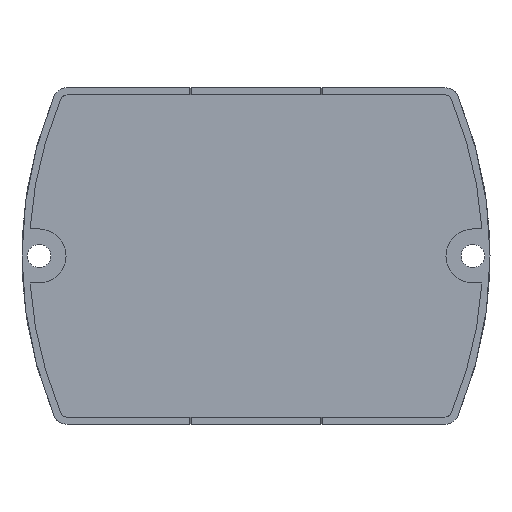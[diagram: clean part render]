
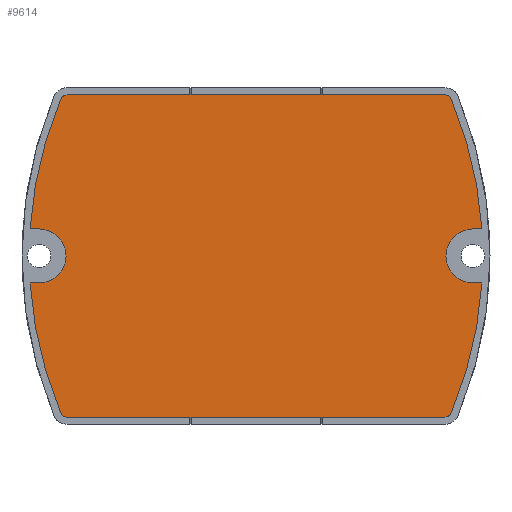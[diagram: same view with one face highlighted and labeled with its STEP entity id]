
A CAD part, front view. The second image highlights one B-rep face of the part: STEP entity #9614.
In plain terms, the highlighted planar face has unit normal (0, -1, 0).
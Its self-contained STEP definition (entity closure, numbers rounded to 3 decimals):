
#3394=CARTESIAN_POINT('',(50.,5.5,0.));
#3395=DIRECTION('',(0.,-1.,0.));
#3396=DIRECTION('',(-0.923,0.,0.385));
#3397=AXIS2_PLACEMENT_3D('',#3394,#3395,#3396);
#3399=CARTESIAN_POINT('',(-52.437,5.5,44.75));
#3400=CARTESIAN_POINT('',(-52.591,5.5,44.75));
#3401=CARTESIAN_POINT('',(-52.908,5.5,44.713));
#3402=CARTESIAN_POINT('',(-53.35,5.5,44.55));
#3403=CARTESIAN_POINT('',(-53.747,5.5,44.286));
#3404=CARTESIAN_POINT('',(-54.068,5.5,43.941));
#3405=CARTESIAN_POINT('',(-54.224,5.5,43.662));
#3406=CARTESIAN_POINT('',(-54.283,5.5,43.52));
#3408=DIRECTION('',(-1.,0.,0.));
#3409=VECTOR('',#3408,104.875);
#3410=CARTESIAN_POINT('',(52.437,5.5,44.75));
#3411=LINE('',#3410,#3409);
#3412=CARTESIAN_POINT('',(54.283,5.5,43.52));
#3413=CARTESIAN_POINT('',(54.224,5.5,43.662));
#3414=CARTESIAN_POINT('',(54.068,5.5,43.941));
#3415=CARTESIAN_POINT('',(53.747,5.5,44.286));
#3416=CARTESIAN_POINT('',(53.35,5.5,44.55));
#3417=CARTESIAN_POINT('',(52.908,5.5,44.713));
#3418=CARTESIAN_POINT('',(52.591,5.5,44.75));
#3419=CARTESIAN_POINT('',(52.437,5.5,44.75));
#3421=CARTESIAN_POINT('',(-50.,5.5,0.));
#3422=DIRECTION('',(0.,-1.,0.));
#3423=DIRECTION('',(0.998,0.,0.066));
#3424=AXIS2_PLACEMENT_3D('',#3421,#3422,#3423);
#3426=DIRECTION('',(1.,0.,0.));
#3427=VECTOR('',#3426,2.501);
#3428=CARTESIAN_POINT('',(60.25,5.5,7.5));
#3429=LINE('',#3428,#3427);
#3430=CARTESIAN_POINT('',(60.25,5.5,0.));
#3431=DIRECTION('',(0.,1.,0.));
#3432=DIRECTION('',(0.,0.,-1.));
#3433=AXIS2_PLACEMENT_3D('',#3430,#3431,#3432);
#3435=DIRECTION('',(-1.,0.,0.));
#3436=VECTOR('',#3435,2.501);
#3437=CARTESIAN_POINT('',(62.751,5.5,-7.5));
#3438=LINE('',#3437,#3436);
#3439=CARTESIAN_POINT('',(-50.,5.5,0.));
#3440=DIRECTION('',(0.,-1.,0.));
#3441=DIRECTION('',(0.923,0.,-0.385));
#3442=AXIS2_PLACEMENT_3D('',#3439,#3440,#3441);
#3444=CARTESIAN_POINT('',(52.437,5.5,-44.75));
#3445=CARTESIAN_POINT('',(52.591,5.5,-44.75));
#3446=CARTESIAN_POINT('',(52.908,5.5,-44.713));
#3447=CARTESIAN_POINT('',(53.35,5.5,-44.55));
#3448=CARTESIAN_POINT('',(53.747,5.5,-44.286));
#3449=CARTESIAN_POINT('',(54.068,5.5,-43.941));
#3450=CARTESIAN_POINT('',(54.224,5.5,-43.662));
#3451=CARTESIAN_POINT('',(54.283,5.5,-43.52));
#3453=DIRECTION('',(1.,0.,0.));
#3454=VECTOR('',#3453,104.875);
#3455=CARTESIAN_POINT('',(-52.437,5.5,-44.75));
#3456=LINE('',#3455,#3454);
#3457=CARTESIAN_POINT('',(-54.283,5.5,-43.52));
#3458=CARTESIAN_POINT('',(-54.224,5.5,-43.662));
#3459=CARTESIAN_POINT('',(-54.068,5.5,-43.941));
#3460=CARTESIAN_POINT('',(-53.747,5.5,-44.286));
#3461=CARTESIAN_POINT('',(-53.35,5.5,-44.55));
#3462=CARTESIAN_POINT('',(-52.908,5.5,-44.713));
#3463=CARTESIAN_POINT('',(-52.591,5.5,-44.75));
#3464=CARTESIAN_POINT('',(-52.437,5.5,-44.75));
#3466=CARTESIAN_POINT('',(50.,5.5,0.));
#3467=DIRECTION('',(0.,-1.,0.));
#3468=DIRECTION('',(-0.998,0.,-0.066));
#3469=AXIS2_PLACEMENT_3D('',#3466,#3467,#3468);
#3471=DIRECTION('',(-1.,0.,0.));
#3472=VECTOR('',#3471,2.501);
#3473=CARTESIAN_POINT('',(-60.25,5.5,-7.5));
#3474=LINE('',#3473,#3472);
#3475=CARTESIAN_POINT('',(-60.25,5.5,0.));
#3476=DIRECTION('',(0.,1.,0.));
#3477=DIRECTION('',(0.,0.,1.));
#3478=AXIS2_PLACEMENT_3D('',#3475,#3476,#3477);
#3480=DIRECTION('',(1.,0.,0.));
#3481=VECTOR('',#3480,2.501);
#3482=CARTESIAN_POINT('',(-62.751,5.5,7.5));
#3483=LINE('',#3482,#3481);
#4521=CARTESIAN_POINT('',(-54.283,5.5,43.52));
#4522=CARTESIAN_POINT('',(-62.751,5.5,7.5));
#4523=VERTEX_POINT('',#4521);
#4524=VERTEX_POINT('',#4522);
#4525=CARTESIAN_POINT('',(-60.25,5.5,7.5));
#4526=VERTEX_POINT('',#4525);
#4527=CARTESIAN_POINT('',(-60.25,5.5,-7.5));
#4528=VERTEX_POINT('',#4527);
#4529=CARTESIAN_POINT('',(-62.751,5.5,-7.5));
#4530=VERTEX_POINT('',#4529);
#4531=CARTESIAN_POINT('',(-54.283,5.5,-43.52));
#4532=VERTEX_POINT('',#4531);
#4533=VERTEX_POINT('',#3464);
#4534=CARTESIAN_POINT('',(52.437,5.5,-44.75));
#4535=VERTEX_POINT('',#4534);
#4536=VERTEX_POINT('',#3451);
#4537=CARTESIAN_POINT('',(62.751,5.5,-7.5));
#4538=VERTEX_POINT('',#4537);
#4539=CARTESIAN_POINT('',(60.25,5.5,-7.5));
#4540=VERTEX_POINT('',#4539);
#4541=CARTESIAN_POINT('',(60.25,5.5,7.5));
#4542=VERTEX_POINT('',#4541);
#4543=CARTESIAN_POINT('',(62.751,5.5,7.5));
#4544=VERTEX_POINT('',#4543);
#4545=CARTESIAN_POINT('',(54.283,5.5,43.52));
#4546=VERTEX_POINT('',#4545);
#4547=VERTEX_POINT('',#3419);
#4548=CARTESIAN_POINT('',(-52.437,5.5,44.75));
#4549=VERTEX_POINT('',#4548);
#9591=CARTESIAN_POINT('',(0.,5.5,-46.75));
#9592=DIRECTION('',(0.,-1.,0.));
#9593=DIRECTION('',(-1.,0.,0.));
#9594=AXIS2_PLACEMENT_3D('',#9591,#9592,#9593);
#9595=PLANE('',#9594);
#9596=ORIENTED_EDGE('',*,*,#7323,.F.);
#9597=ORIENTED_EDGE('',*,*,#7346,.F.);
#9598=ORIENTED_EDGE('',*,*,#7365,.F.);
#9599=ORIENTED_EDGE('',*,*,#9493,.F.);
#9600=ORIENTED_EDGE('',*,*,#9507,.F.);
#9601=ORIENTED_EDGE('',*,*,#9521,.F.);
#9602=ORIENTED_EDGE('',*,*,#9535,.F.);
#9603=ORIENTED_EDGE('',*,*,#9549,.F.);
#9604=ORIENTED_EDGE('',*,*,#9563,.F.);
#9605=ORIENTED_EDGE('',*,*,#9585,.F.);
#9606=ORIENTED_EDGE('',*,*,#7224,.F.);
#9607=ORIENTED_EDGE('',*,*,#7253,.F.);
#9608=ORIENTED_EDGE('',*,*,#7267,.F.);
#9609=ORIENTED_EDGE('',*,*,#7281,.F.);
#9610=ORIENTED_EDGE('',*,*,#7295,.F.);
#9611=ORIENTED_EDGE('',*,*,#7309,.F.);
#9612=EDGE_LOOP('',(#9596,#9597,#9598,#9599,#9600,#9601,#9602,#9603,#9604,#9605,
#9606,#9607,#9608,#9609,#9610,#9611));
#9613=FACE_OUTER_BOUND('',#9612,.F.);
#3398=CIRCLE('',#3397,113.);
#3407=B_SPLINE_CURVE_WITH_KNOTS('',3,(#3399,#3400,#3401,#3402,#3403,#3404,#3405,
#3406),.UNSPECIFIED.,.F.,.F.,(4,1,1,1,1,4),(0.,0.199,
0.4,0.6,0.801,1.),.UNSPECIFIED.);
#3420=B_SPLINE_CURVE_WITH_KNOTS('',3,(#3412,#3413,#3414,#3415,#3416,#3417,#3418,
#3419),.UNSPECIFIED.,.F.,.F.,(4,1,1,1,1,4),(0.,0.199,
0.4,0.6,0.801,1.),.UNSPECIFIED.);
#3425=CIRCLE('',#3424,113.);
#3434=CIRCLE('',#3433,7.5);
#3443=CIRCLE('',#3442,113.);
#3452=B_SPLINE_CURVE_WITH_KNOTS('',3,(#3444,#3445,#3446,#3447,#3448,#3449,#3450,
#3451),.UNSPECIFIED.,.F.,.F.,(4,1,1,1,1,4),(0.,0.199,
0.4,0.6,0.801,1.),.UNSPECIFIED.);
#3465=B_SPLINE_CURVE_WITH_KNOTS('',3,(#3457,#3458,#3459,#3460,#3461,#3462,#3463,
#3464),.UNSPECIFIED.,.F.,.F.,(4,1,1,1,1,4),(0.,0.199,
0.4,0.6,0.801,1.),.UNSPECIFIED.);
#3470=CIRCLE('',#3469,113.);
#3479=CIRCLE('',#3478,7.5);
#7224=EDGE_CURVE('',#4533,#4535,#3456,.T.);
#7253=EDGE_CURVE('',#4532,#4533,#3465,.T.);
#7267=EDGE_CURVE('',#4530,#4532,#3470,.T.);
#7281=EDGE_CURVE('',#4528,#4530,#3474,.T.);
#7295=EDGE_CURVE('',#4526,#4528,#3479,.T.);
#7309=EDGE_CURVE('',#4524,#4526,#3483,.T.);
#7323=EDGE_CURVE('',#4523,#4524,#3398,.T.);
#7346=EDGE_CURVE('',#4549,#4523,#3407,.T.);
#7365=EDGE_CURVE('',#4547,#4549,#3411,.T.);
#9493=EDGE_CURVE('',#4546,#4547,#3420,.T.);
#9507=EDGE_CURVE('',#4544,#4546,#3425,.T.);
#9521=EDGE_CURVE('',#4542,#4544,#3429,.T.);
#9535=EDGE_CURVE('',#4540,#4542,#3434,.T.);
#9549=EDGE_CURVE('',#4538,#4540,#3438,.T.);
#9563=EDGE_CURVE('',#4536,#4538,#3443,.T.);
#9585=EDGE_CURVE('',#4535,#4536,#3452,.T.);
#9614=ADVANCED_FACE('',(#9613),#9595,.T.);
